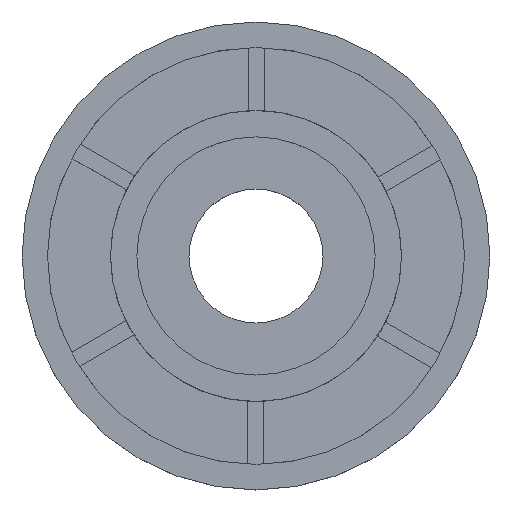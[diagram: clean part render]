
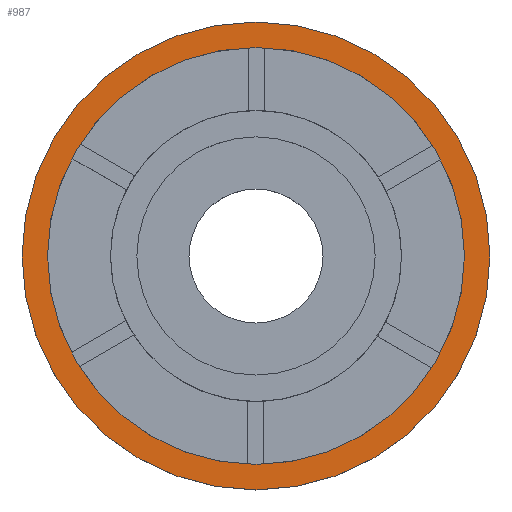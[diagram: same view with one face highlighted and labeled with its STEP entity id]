
A CAD part, top view. The second image highlights one B-rep face of the part: STEP entity #987.
In plain terms, the highlighted planar face has unit normal (0, 0, 1).
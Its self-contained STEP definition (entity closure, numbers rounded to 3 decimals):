
#23 = AXIS2_PLACEMENT_3D ( 'NONE', #775, #883, #546 ) ;
#36 = EDGE_LOOP ( 'NONE', ( #985, #503 ) ) ;
#58 = DIRECTION ( 'NONE',  ( 0., 0., 1. ) ) ;
#73 = CARTESIAN_POINT ( 'NONE',  ( 27.5, 0., 7.1 ) ) ;
#120 = EDGE_CURVE ( 'NONE', #1332, #153, #1105, .T. ) ;
#153 = VERTEX_POINT ( 'NONE', #283 ) ;
#163 = DIRECTION ( 'NONE',  ( 1., 0., 0. ) ) ;
#208 = CIRCLE ( 'NONE', #738, 24.5 ) ;
#270 = FACE_BOUND ( 'NONE', #1027, .T. ) ;
#283 = CARTESIAN_POINT ( 'NONE',  ( -27.5, 0., 7.1 ) ) ;
#393 = CARTESIAN_POINT ( 'NONE',  ( 0., 0., 7.1 ) ) ;
#503 = ORIENTED_EDGE ( 'NONE', *, *, #120, .T. ) ;
#546 = DIRECTION ( 'NONE',  ( 1., 0., 0. ) ) ;
#572 = FACE_OUTER_BOUND ( 'NONE', #36, .T. ) ;
#580 = DIRECTION ( 'NONE',  ( 1., 0., 0. ) ) ;
#658 = CARTESIAN_POINT ( 'NONE',  ( 24.5, 0., 7.1 ) ) ;
#676 = CARTESIAN_POINT ( 'NONE',  ( 0., 0., 7.1 ) ) ;
#730 = ORIENTED_EDGE ( 'NONE', *, *, #1008, .F. ) ;
#734 = CIRCLE ( 'NONE', #1141, 24.5 ) ;
#738 = AXIS2_PLACEMENT_3D ( 'NONE', #1000, #58, #580 ) ;
#744 = CARTESIAN_POINT ( 'NONE',  ( -24.5, 0., 7.1 ) ) ;
#775 = CARTESIAN_POINT ( 'NONE',  ( 0., 0., 7.1 ) ) ;
#784 = DIRECTION ( 'NONE',  ( 0., 0., 1. ) ) ;
#819 = DIRECTION ( 'NONE',  ( 1., 0., 0. ) ) ;
#828 = EDGE_CURVE ( 'NONE', #153, #1332, #1073, .T. ) ;
#838 = EDGE_CURVE ( 'NONE', #1233, #1109, #734, .T. ) ;
#883 = DIRECTION ( 'NONE',  ( 0., 0., 1. ) ) ;
#926 = AXIS2_PLACEMENT_3D ( 'NONE', #393, #1337, #819 ) ;
#985 = ORIENTED_EDGE ( 'NONE', *, *, #828, .T. ) ;
#987 = ADVANCED_FACE ( 'NONE', ( #270, #572 ), #1087, .T. ) ;
#1000 = CARTESIAN_POINT ( 'NONE',  ( 0., 0., 7.1 ) ) ;
#1008 = EDGE_CURVE ( 'NONE', #1109, #1233, #208, .T. ) ;
#1027 = EDGE_LOOP ( 'NONE', ( #1096, #730 ) ) ;
#1073 = CIRCLE ( 'NONE', #23, 27.5 ) ;
#1087 = PLANE ( 'NONE',  #1143 ) ;
#1090 = DIRECTION ( 'NONE',  ( 1., 0., 0. ) ) ;
#1096 = ORIENTED_EDGE ( 'NONE', *, *, #838, .F. ) ;
#1098 = CARTESIAN_POINT ( 'NONE',  ( 0., 0., 7.1 ) ) ;
#1105 = CIRCLE ( 'NONE', #926, 27.5 ) ;
#1109 = VERTEX_POINT ( 'NONE', #744 ) ;
#1141 = AXIS2_PLACEMENT_3D ( 'NONE', #1098, #784, #1090 ) ;
#1143 = AXIS2_PLACEMENT_3D ( 'NONE', #676, #1296, #163 ) ;
#1233 = VERTEX_POINT ( 'NONE', #658 ) ;
#1296 = DIRECTION ( 'NONE',  ( 0., 0., 1. ) ) ;
#1332 = VERTEX_POINT ( 'NONE', #73 ) ;
#1337 = DIRECTION ( 'NONE',  ( 0., 0., 1. ) ) ;
